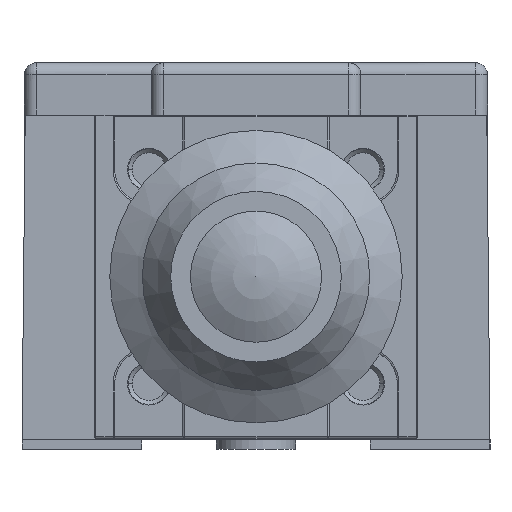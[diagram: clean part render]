
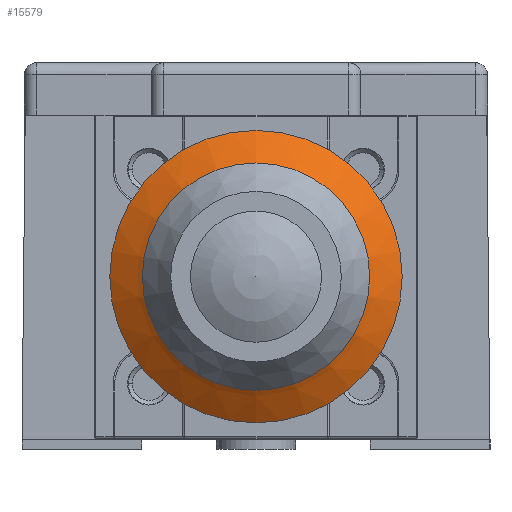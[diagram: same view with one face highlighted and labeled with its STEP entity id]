
A CAD part, left-side view. The second image highlights one B-rep face of the part: STEP entity #15579.
In plain terms, the highlighted conical face has half-angle 55.305 degrees and reference radius 9 mm.
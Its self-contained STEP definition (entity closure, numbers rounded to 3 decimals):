
#15559 = EDGE_CURVE('',#15560,#15560,#15562,.T.);
#15560 = VERTEX_POINT('',#15561);
#15561 = CARTESIAN_POINT('',(52.223,-4.628,222.715));
#15562 = CIRCLE('',#15563,9.);
#15563 = AXIS2_PLACEMENT_3D('',#15564,#15565,#15566);
#15564 = CARTESIAN_POINT('',(52.223,-4.628,231.715));
#15565 = DIRECTION('',(1.,0.,0.));
#15566 = DIRECTION('',(0.,0.,-1.));
#15579 = ADVANCED_FACE('',(#15580),#15598,.T.);
#15580 = FACE_BOUND('',#15581,.T.);
#15581 = EDGE_LOOP('',(#15582,#15591,#15596,#15597));
#15582 = ORIENTED_EDGE('',*,*,#15583,.T.);
#15583 = EDGE_CURVE('',#15584,#15584,#15586,.T.);
#15584 = VERTEX_POINT('',#15585);
#15585 = CARTESIAN_POINT('',(49.973,-4.628,225.965));
#15586 = CIRCLE('',#15587,5.75);
#15587 = AXIS2_PLACEMENT_3D('',#15588,#15589,#15590);
#15588 = CARTESIAN_POINT('',(49.973,-4.628,231.715));
#15589 = DIRECTION('',(1.,0.,0.));
#15590 = DIRECTION('',(0.,0.,-1.));
#15591 = ORIENTED_EDGE('',*,*,#15592,.T.);
#15592 = EDGE_CURVE('',#15584,#15560,#15593,.T.);
#15593 = B_SPLINE_CURVE_WITH_KNOTS('',1,(#15594,#15595),.UNSPECIFIED.,
  .F.,.F.,(2,2),(-3.953,0.),.PIECEWISE_BEZIER_KNOTS.);
#15594 = CARTESIAN_POINT('',(49.973,-4.628,225.965));
#15595 = CARTESIAN_POINT('',(52.223,-4.628,222.715));
#15596 = ORIENTED_EDGE('',*,*,#15559,.F.);
#15597 = ORIENTED_EDGE('',*,*,#15592,.F.);
#15598 = CONICAL_SURFACE('',#15599,9.,0.965);
#15599 = AXIS2_PLACEMENT_3D('',#15600,#15601,#15602);
#15600 = CARTESIAN_POINT('',(52.223,-4.628,231.715));
#15601 = DIRECTION('',(1.,0.,0.));
#15602 = DIRECTION('',(0.,0.,-1.));
